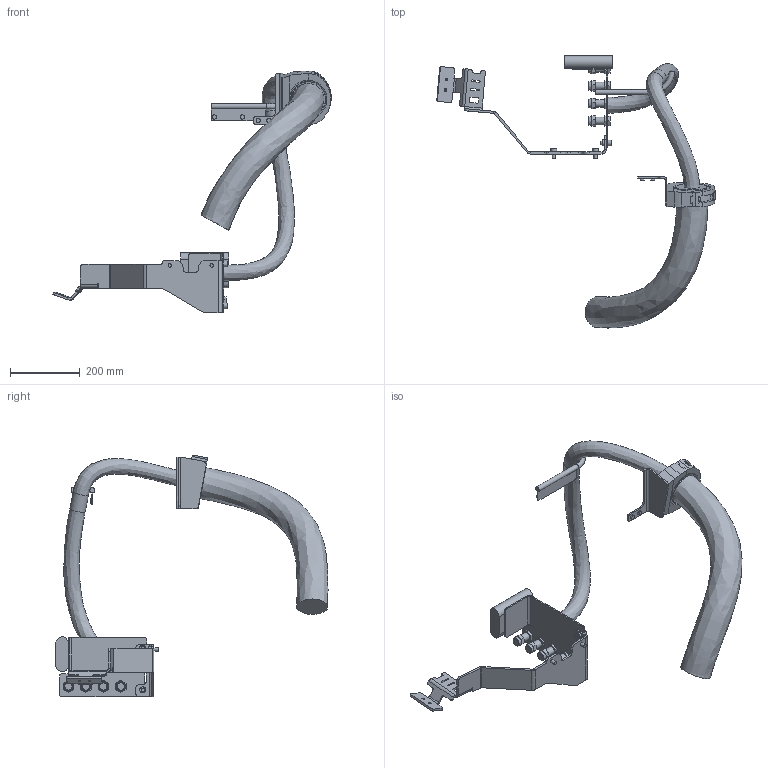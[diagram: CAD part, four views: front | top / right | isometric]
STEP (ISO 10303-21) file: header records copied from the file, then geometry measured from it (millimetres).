
FILE_DESCRIPTION (( 'STEP AP214' ), '1' );
FILE_NAME ('IRB6750S-LID-SW_ALL-OC_00_LINK03a_CABLE.step', '2026-05-13T05:40:55', ( '' ), ( '' ), 'SwSTEP 2.0', 'SolidWorks 2024', '' );
FILE_SCHEMA (( 'AUTOMOTIVE_DESIGN' ));
Length unit declared in the file: millimetre
Products named in the file (1): IRB6750S-LID-SW_ALL-OC_00_LINK03a_CABLE
Bounding box: 797.03 x 779.65 x 692.56 mm (x, y, z)
Volume: 7543013.5 mm3; surface area: 693395 mm2
Topology: 1 solids, 2 shells, 468 faces, 1169 edges, 748 vertices
Faces by surface type: plane 324, cylinder 120, cone 10, bspline 8, sphere 5, torus 1
Full cylindrical faces by diameter (mm): 6 x2, 6.8 x2, 10 x4, 10.22 x2, 12 x4, 15 x1, 16.27 x4, 17.321 x2, 21 x4, 22 x4, 45 x1, 90 x1
Entity records: 21670 total; most frequent: CARTESIAN_POINT 5558, DIRECTION 2257, ORIENTED_EDGE 2206, EDGE_CURVE 1103, AXIS2_PLACEMENT_3D 762, LINE 733, VECTOR 733, VERTEX_POINT 723
